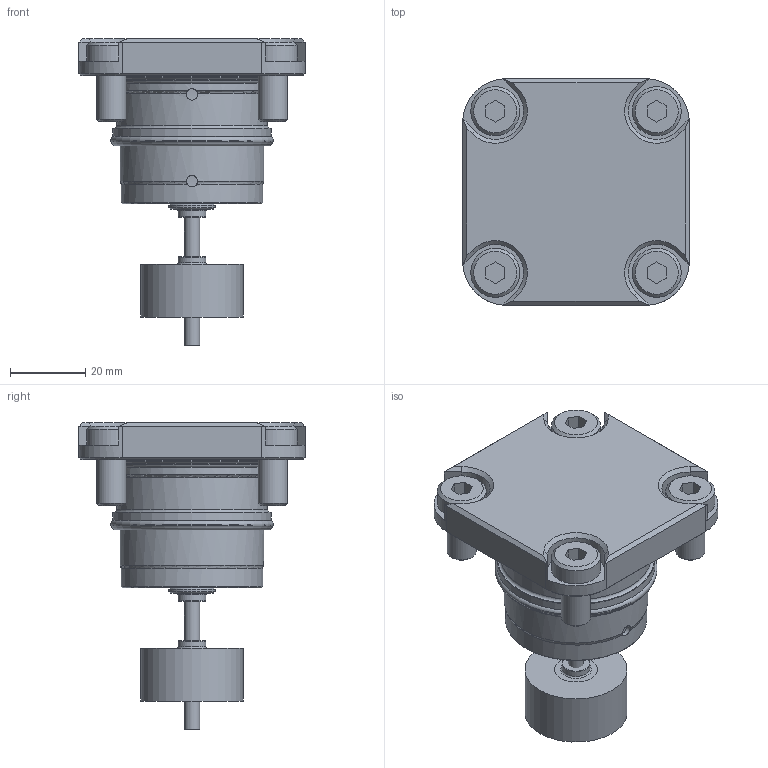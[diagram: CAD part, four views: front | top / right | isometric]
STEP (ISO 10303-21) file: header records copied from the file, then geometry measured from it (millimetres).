
FILE_DESCRIPTION(/* description */ (''),/* implementation_level */ '2;1');
FILE_NAME(/* name */ 'EMI+Cover_simplified.stp',/* time_stamp */ '2022-02-25T17:18:33+01:00',/* author */ (''),/* organization */ (''),/* preprocessor_version */ 'ST-DEVELOPER v16',/* originating_system */ 'SIEMENS PLM Software NX 11.0',/* authorisation */ '');
FILE_SCHEMA (('AUTOMOTIVE_DESIGN { 1 0 10303 214 3 1 1 1 }'));
Length unit declared in the file: millimetre
Products named in the file (1): mtou36387486v3ps
Bounding box: 60 x 60 x 81.33 mm (x, y, z)
Volume: 109300.8 mm3; surface area: 38469.8 mm2
Topology: 22 solids, 22 shells, 263 faces, 556 edges, 349 vertices
Faces by surface type: plane 119, cylinder 65, torus 41, cone 38
Full cylindrical faces by diameter (mm): 1 x1, 3 x2, 4.033 x1, 6.895 x1, 7.4 x4, 7.76 x4, 8 x4, 11.5 x1, 12.2 x2, 13 x4, 20 x1, 27.1 x1, 29.55 x1, 32 x1, 34.8 x2, 37.5 x1, 37.993 x1, 38.02 x1, 38.323 x1, 40 x1, 42 x2, 42.639 x1, 44.906 x1, 45.34 x1, 45.75 x1, 48.65 x1, 49.85 x1
Entity records: 6876 total; most frequent: CARTESIAN_POINT 1485, DIRECTION 1136, ORIENTED_EDGE 828, AXIS2_PLACEMENT_3D 472, EDGE_CURVE 414, EDGE_LOOP 395, VERTEX_POINT 316, FACE_BOUND 272
